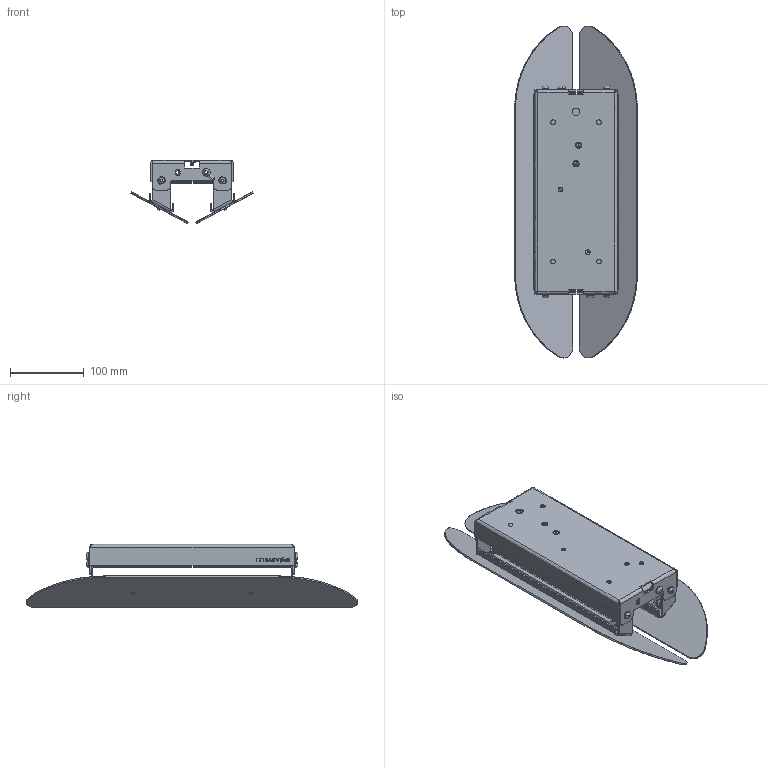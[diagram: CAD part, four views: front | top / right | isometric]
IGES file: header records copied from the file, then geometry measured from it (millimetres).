
Start section: SolidWorks IGES file using analytic representation for surfaces
Global section: file name: C:\VaultDeCastelli\Progetti\DC\PESO LEGGERO PRODOTTI\Ale\DeCastelli-3D-Aare 45.igs; native system: SolidWorks 2022; preprocessor: SolidWorks 2022; author: AlessandroP; date: 240726.104042; units: millimetre
Bounding box: 166.33 x 450.16 x 85.81 mm (x, y, z)
Surface area: 348263.9 mm2 (no closed solid volume)
Topology: 0 solids, 0 shells, 540 faces, 8809 edges, 8809 vertices
Faces by surface type: bspline 325, revolution 215
